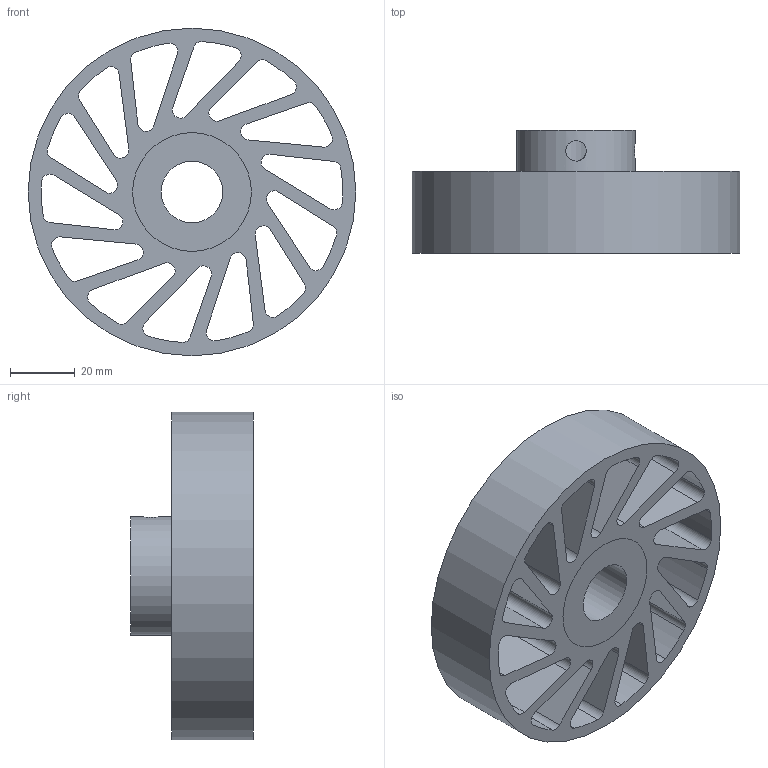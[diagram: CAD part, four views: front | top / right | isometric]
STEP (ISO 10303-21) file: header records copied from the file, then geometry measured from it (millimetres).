
FILE_DESCRIPTION(/* description */ (''),/* implementation_level */ '2;1');
FILE_NAME(/* name */ 'NCW-370-XXX-YYY.stp',/* time_stamp */ '2023-02-02T15:04:11-06:00',/* author */ ('AG'),/* organization */ ('Meridian Laboratory'),/* preprocessor_version */ 'ST-DEVELOPER v18.1',/* originating_system */ 'Autodesk Inventor 2022',/* authorisation */ '');
FILE_SCHEMA (('AUTOMOTIVE_DESIGN { 1 0 10303 214 3 1 1 }'));
Length unit declared in the file: inch
Products named in the file (1): NCW-340
Bounding box: 101.6 x 38.1 x 101.6 mm (x, y, z)
Volume: 117542.2 mm3; surface area: 51090.8 mm2
Topology: 2 solids, 2 shells, 94 faces, 276 edges, 186 vertices
Faces by surface type: cylinder 62, plane 32
Full cylindrical faces by diameter (mm): 6.35 x2, 19.075 x1, 36.83 x2, 101.6 x1
Entity records: 3530 total; most frequent: CARTESIAN_POINT 697, DIRECTION 576, ORIENTED_EDGE 552, EDGE_CURVE 276, AXIS2_PLACEMENT_3D 215, VERTEX_POINT 186, LINE 146, VECTOR 146
